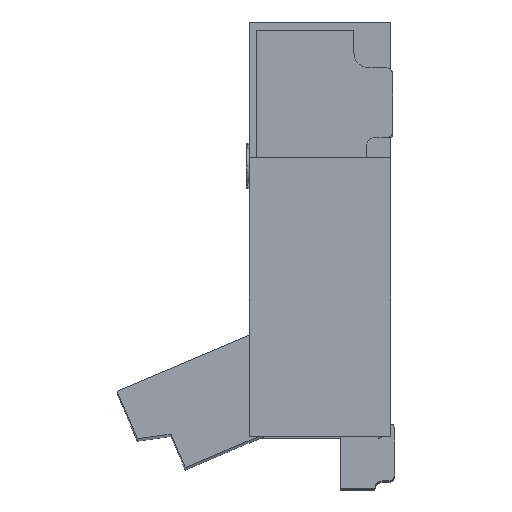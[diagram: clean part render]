
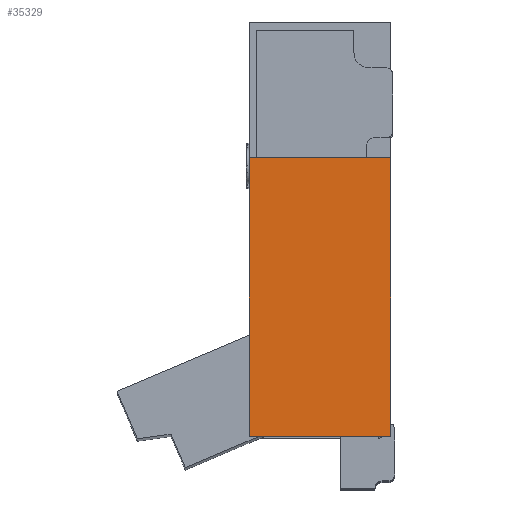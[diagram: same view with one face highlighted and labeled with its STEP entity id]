
A CAD part, top view. The second image highlights one B-rep face of the part: STEP entity #35329.
In plain terms, the highlighted planar face has unit normal (0, 0, 1).
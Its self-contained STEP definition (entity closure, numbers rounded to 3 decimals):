
#73 = VECTOR ( 'NONE', #4757, 1000. ) ;
#504 = DIRECTION ( 'NONE',  ( 0., 1., 0. ) ) ;
#1089 = ORIENTED_EDGE ( 'NONE', *, *, #23101, .F. ) ;
#3174 = LINE ( 'NONE', #3369, #12750 ) ;
#3227 = VERTEX_POINT ( 'NONE', #26586 ) ;
#3369 = CARTESIAN_POINT ( 'NONE',  ( 396.935, -227.905, 12.045 ) ) ;
#3663 = PLANE ( 'NONE',  #36006 ) ;
#3694 = ORIENTED_EDGE ( 'NONE', *, *, #26474, .F. ) ;
#4757 = DIRECTION ( 'NONE',  ( 0., -1., 0. ) ) ;
#6410 = DIRECTION ( 'NONE',  ( -1., 0., 0. ) ) ;
#7008 = ORIENTED_EDGE ( 'NONE', *, *, #15270, .T. ) ;
#7677 = LINE ( 'NONE', #21506, #73 ) ;
#8567 = CARTESIAN_POINT ( 'NONE',  ( 395.945, -229.855, 12.045 ) ) ;
#9437 = CARTESIAN_POINT ( 'NONE',  ( 395.945, -229.855, 12.045 ) ) ;
#9502 = CARTESIAN_POINT ( 'NONE',  ( 396.935, -229.855, 12.045 ) ) ;
#10663 = CARTESIAN_POINT ( 'NONE',  ( 395.945, -227.905, 12.045 ) ) ;
#12750 = VECTOR ( 'NONE', #33780, 1000. ) ;
#13353 = ORIENTED_EDGE ( 'NONE', *, *, #16027, .F. ) ;
#15270 = EDGE_CURVE ( 'NONE', #3227, #33767, #3174, .T. ) ;
#16027 = EDGE_CURVE ( 'NONE', #17915, #33767, #29546, .T. ) ;
#17764 = VECTOR ( 'NONE', #6410, 1000. ) ;
#17915 = VERTEX_POINT ( 'NONE', #8567 ) ;
#21506 = CARTESIAN_POINT ( 'NONE',  ( 396.935, -227.905, 12.045 ) ) ;
#23101 = EDGE_CURVE ( 'NONE', #3227, #29423, #7677, .T. ) ;
#23687 = DIRECTION ( 'NONE',  ( 0., -1., 0. ) ) ;
#25728 = LINE ( 'NONE', #9502, #17764 ) ;
#25879 = FACE_OUTER_BOUND ( 'NONE', #33889, .T. ) ;
#26243 = DIRECTION ( 'NONE',  ( 0., 0., -1. ) ) ;
#26474 = EDGE_CURVE ( 'NONE', #29423, #17915, #25728, .T. ) ;
#26586 = CARTESIAN_POINT ( 'NONE',  ( 396.935, -227.905, 12.045 ) ) ;
#27414 = CARTESIAN_POINT ( 'NONE',  ( 396.935, -229.855, 12.045 ) ) ;
#29423 = VERTEX_POINT ( 'NONE', #27414 ) ;
#29546 = LINE ( 'NONE', #9437, #31940 ) ;
#31940 = VECTOR ( 'NONE', #504, 1000. ) ;
#33767 = VERTEX_POINT ( 'NONE', #10663 ) ;
#33780 = DIRECTION ( 'NONE',  ( -1., 0., 0. ) ) ;
#33889 = EDGE_LOOP ( 'NONE', ( #13353, #3694, #1089, #7008 ) ) ;
#34780 = CARTESIAN_POINT ( 'NONE',  ( 0., 0., 12.045 ) ) ;
#35329 = ADVANCED_FACE ( 'NONE', ( #25879 ), #3663, .F. ) ;
#36006 = AXIS2_PLACEMENT_3D ( 'NONE', #34780, #26243, #23687 ) ;
